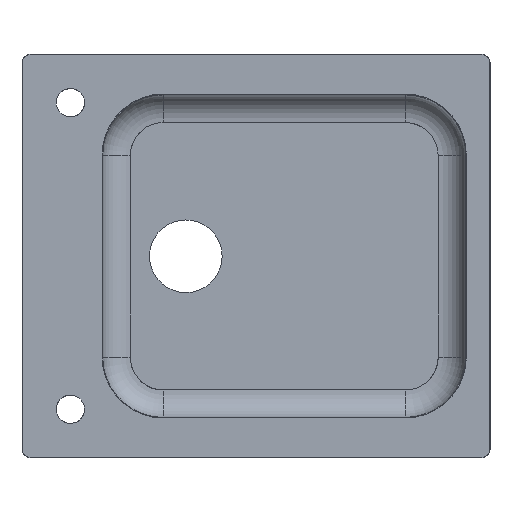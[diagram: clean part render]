
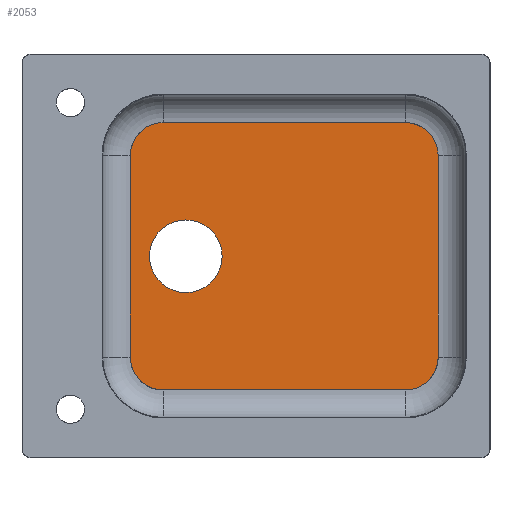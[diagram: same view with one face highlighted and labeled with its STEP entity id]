
A CAD part, top view. The second image highlights one B-rep face of the part: STEP entity #2053.
In plain terms, the highlighted planar face has unit normal (0, 0, 1).
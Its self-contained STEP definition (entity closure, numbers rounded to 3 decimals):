
#1889=CARTESIAN_POINT('Vertex',(248.,0.,-201.9)) ;
#1892=CARTESIAN_POINT('Axis2P3D Location',(203.,0.,-201.9)) ;
#1896=CARTESIAN_POINT('Vertex',(158.,0.,-201.9)) ;
#1911=CARTESIAN_POINT('Axis2P3D Location',(203.,0.,-201.9)) ;
#1954=CARTESIAN_POINT('Axis2P3D Location',(325.,0.,-201.9)) ;
#1960=CARTESIAN_POINT('Control Point',(475.,-165.7,-201.9)) ;
#1961=CARTESIAN_POINT('Control Point',(481.393,-165.7,-201.9)) ;
#1962=CARTESIAN_POINT('Control Point',(487.786,-164.445,-201.9)) ;
#1963=CARTESIAN_POINT('Control Point',(493.85,-161.933,-201.9)) ;
#1964=CARTESIAN_POINT('Control Point',(504.667,-154.667,-201.9)) ;
#1965=CARTESIAN_POINT('Control Point',(511.933,-143.85,-201.9)) ;
#1966=CARTESIAN_POINT('Control Point',(514.445,-137.786,-201.9)) ;
#1967=CARTESIAN_POINT('Control Point',(515.7,-131.393,-201.9)) ;
#1968=CARTESIAN_POINT('Control Point',(515.7,-125.,-201.9)) ;
#1969=CARTESIAN_POINT('Vertex',(475.,-165.7,-201.9)) ;
#1971=CARTESIAN_POINT('Vertex',(515.7,-125.,-201.9)) ;
#1974=CARTESIAN_POINT('Line Origine',(515.7,0.,-201.9)) ;
#1978=CARTESIAN_POINT('Vertex',(515.7,125.,-201.9)) ;
#1982=CARTESIAN_POINT('Control Point',(515.7,125.,-201.9)) ;
#1983=CARTESIAN_POINT('Control Point',(515.7,131.393,-201.9)) ;
#1984=CARTESIAN_POINT('Control Point',(514.445,137.786,-201.9)) ;
#1985=CARTESIAN_POINT('Control Point',(511.933,143.85,-201.9)) ;
#1986=CARTESIAN_POINT('Control Point',(504.667,154.667,-201.9)) ;
#1987=CARTESIAN_POINT('Control Point',(493.85,161.933,-201.9)) ;
#1988=CARTESIAN_POINT('Control Point',(487.786,164.445,-201.9)) ;
#1989=CARTESIAN_POINT('Control Point',(481.393,165.7,-201.9)) ;
#1990=CARTESIAN_POINT('Control Point',(475.,165.7,-201.9)) ;
#1991=CARTESIAN_POINT('Vertex',(475.,165.7,-201.9)) ;
#1994=CARTESIAN_POINT('Line Origine',(325.,165.7,-201.9)) ;
#1998=CARTESIAN_POINT('Vertex',(175.,165.7,-201.9)) ;
#2002=CARTESIAN_POINT('Control Point',(175.,165.7,-201.9)) ;
#2003=CARTESIAN_POINT('Control Point',(168.607,165.7,-201.9)) ;
#2004=CARTESIAN_POINT('Control Point',(162.214,164.445,-201.9)) ;
#2005=CARTESIAN_POINT('Control Point',(156.15,161.933,-201.9)) ;
#2006=CARTESIAN_POINT('Control Point',(145.333,154.667,-201.9)) ;
#2007=CARTESIAN_POINT('Control Point',(138.067,143.85,-201.9)) ;
#2008=CARTESIAN_POINT('Control Point',(135.555,137.786,-201.9)) ;
#2009=CARTESIAN_POINT('Control Point',(134.3,131.393,-201.9)) ;
#2010=CARTESIAN_POINT('Control Point',(134.3,125.,-201.9)) ;
#2011=CARTESIAN_POINT('Vertex',(134.3,125.,-201.9)) ;
#2014=CARTESIAN_POINT('Line Origine',(134.3,0.,-201.9)) ;
#2018=CARTESIAN_POINT('Vertex',(134.3,-125.,-201.9)) ;
#2022=CARTESIAN_POINT('Control Point',(134.3,-125.,-201.9)) ;
#2023=CARTESIAN_POINT('Control Point',(134.3,-131.393,-201.9)) ;
#2024=CARTESIAN_POINT('Control Point',(135.555,-137.786,-201.9)) ;
#2025=CARTESIAN_POINT('Control Point',(138.067,-143.85,-201.9)) ;
#2026=CARTESIAN_POINT('Control Point',(145.333,-154.667,-201.9)) ;
#2027=CARTESIAN_POINT('Control Point',(156.15,-161.933,-201.9)) ;
#2028=CARTESIAN_POINT('Control Point',(162.214,-164.445,-201.9)) ;
#2029=CARTESIAN_POINT('Control Point',(168.607,-165.7,-201.9)) ;
#2030=CARTESIAN_POINT('Control Point',(175.,-165.7,-201.9)) ;
#2031=CARTESIAN_POINT('Vertex',(175.,-165.7,-201.9)) ;
#2034=CARTESIAN_POINT('Line Origine',(325.,-165.7,-201.9)) ;
#1893=DIRECTION('Axis2P3D Direction',(0.,0.,1.)) ;
#1912=DIRECTION('Axis2P3D Direction',(0.,0.,1.)) ;
#1955=DIRECTION('Axis2P3D Direction',(0.,0.,1.)) ;
#1956=DIRECTION('Axis2P3D XDirection',(1.,0.,0.)) ;
#1975=DIRECTION('Vector Direction',(0.,1.,0.)) ;
#1995=DIRECTION('Vector Direction',(1.,0.,0.)) ;
#2015=DIRECTION('Vector Direction',(0.,1.,0.)) ;
#2035=DIRECTION('Vector Direction',(1.,0.,0.)) ;
#1894=AXIS2_PLACEMENT_3D('Circle Axis2P3D',#1892,#1893,$) ;
#1913=AXIS2_PLACEMENT_3D('Circle Axis2P3D',#1911,#1912,$) ;
#1957=AXIS2_PLACEMENT_3D('Plane Axis2P3D',#1954,#1955,#1956) ;
#2040=ORIENTED_EDGE('',*,*,#1973,.T.) ;
#2041=ORIENTED_EDGE('',*,*,#1980,.F.) ;
#2042=ORIENTED_EDGE('',*,*,#1993,.T.) ;
#2043=ORIENTED_EDGE('',*,*,#2000,.F.) ;
#2044=ORIENTED_EDGE('',*,*,#2013,.T.) ;
#2045=ORIENTED_EDGE('',*,*,#2020,.F.) ;
#2046=ORIENTED_EDGE('',*,*,#2033,.T.) ;
#2047=ORIENTED_EDGE('',*,*,#2038,.F.) ;
#2050=ORIENTED_EDGE('',*,*,#1898,.F.) ;
#2051=ORIENTED_EDGE('',*,*,#1915,.F.) ;
#2052=FACE_BOUND('',#2049,.T.) ;
#1976=VECTOR('Line Direction',#1975,1.) ;
#1996=VECTOR('Line Direction',#1995,1.) ;
#2016=VECTOR('Line Direction',#2015,1.) ;
#2036=VECTOR('Line Direction',#2035,1.) ;
#2053=ADVANCED_FACE('Vasca-45',(#2048,#2052),#1958,.T.) ;
#1959=B_SPLINE_CURVE_WITH_KNOTS('',5,(#1960,#1961,#1962,#1963,#1964,#1965,#1966,#1967,#1968),.UNSPECIFIED.,.F.,.U.,(6,3,6),(191.794,223.76,255.726),.UNSPECIFIED.) ;
#1981=B_SPLINE_CURVE_WITH_KNOTS('',5,(#1982,#1983,#1984,#1985,#1986,#1987,#1988,#1989,#1990),.UNSPECIFIED.,.F.,.U.,(6,3,6),(0.,31.966,63.931),.UNSPECIFIED.) ;
#2001=B_SPLINE_CURVE_WITH_KNOTS('',5,(#2002,#2003,#2004,#2005,#2006,#2007,#2008,#2009,#2010),.UNSPECIFIED.,.F.,.U.,(6,3,6),(63.931,95.897,127.863),.UNSPECIFIED.) ;
#2021=B_SPLINE_CURVE_WITH_KNOTS('',5,(#2022,#2023,#2024,#2025,#2026,#2027,#2028,#2029,#2030),.UNSPECIFIED.,.F.,.U.,(6,3,6),(127.863,159.829,191.794),.UNSPECIFIED.) ;
#1895=CIRCLE('generated circle',#1894,45.) ;
#1914=CIRCLE('generated circle',#1913,45.) ;
#1898=EDGE_CURVE('',#1890,#1897,#1895,.T.) ;
#1915=EDGE_CURVE('',#1897,#1890,#1914,.T.) ;
#1973=EDGE_CURVE('',#1970,#1972,#1959,.T.) ;
#1980=EDGE_CURVE('',#1979,#1972,#1977,.F.) ;
#1993=EDGE_CURVE('',#1979,#1992,#1981,.T.) ;
#2000=EDGE_CURVE('',#1999,#1992,#1997,.T.) ;
#2013=EDGE_CURVE('',#1999,#2012,#2001,.T.) ;
#2020=EDGE_CURVE('',#2019,#2012,#2017,.T.) ;
#2033=EDGE_CURVE('',#2019,#2032,#2021,.T.) ;
#2038=EDGE_CURVE('',#1970,#2032,#2037,.F.) ;
#2039=EDGE_LOOP('',(#2040,#2041,#2042,#2043,#2044,#2045,#2046,#2047)) ;
#2049=EDGE_LOOP('',(#2050,#2051)) ;
#2048=FACE_OUTER_BOUND('',#2039,.T.) ;
#1977=LINE('Line',#1974,#1976) ;
#1997=LINE('Line',#1994,#1996) ;
#2017=LINE('Line',#2014,#2016) ;
#2037=LINE('Line',#2034,#2036) ;
#1958=PLANE('',#1957) ;
#1890=VERTEX_POINT('',#1889) ;
#1897=VERTEX_POINT('',#1896) ;
#1970=VERTEX_POINT('',#1969) ;
#1972=VERTEX_POINT('',#1971) ;
#1979=VERTEX_POINT('',#1978) ;
#1992=VERTEX_POINT('',#1991) ;
#1999=VERTEX_POINT('',#1998) ;
#2012=VERTEX_POINT('',#2011) ;
#2019=VERTEX_POINT('',#2018) ;
#2032=VERTEX_POINT('',#2031) ;
